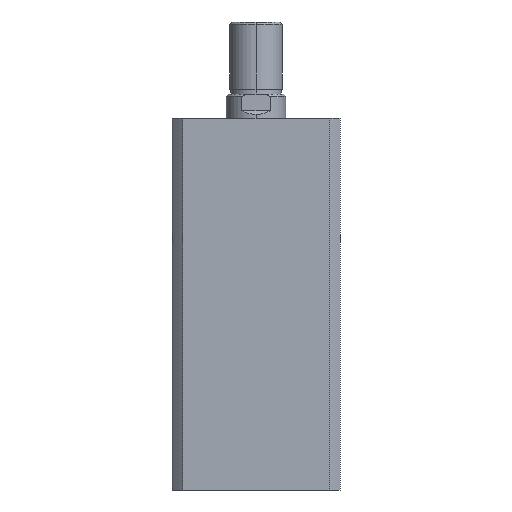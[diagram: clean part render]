
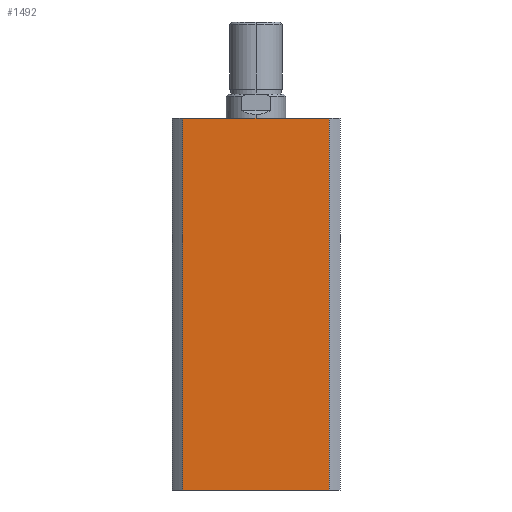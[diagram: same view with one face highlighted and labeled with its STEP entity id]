
A CAD part, left-side view. The second image highlights one B-rep face of the part: STEP entity #1492.
In plain terms, the highlighted planar face has unit normal (-1, 0, 0).
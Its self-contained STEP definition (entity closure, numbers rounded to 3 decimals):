
#146 = VERTEX_POINT ( 'NONE', #3818 ) ;
#182 = ORIENTED_EDGE ( 'NONE', *, *, #2822, .T. ) ;
#184 = ORIENTED_EDGE ( 'NONE', *, *, #2835, .F. ) ;
#195 = ORIENTED_EDGE ( 'NONE', *, *, #2828, .F. ) ;
#201 = ORIENTED_EDGE ( 'NONE', *, *, #2465, .T. ) ;
#362 = VERTEX_POINT ( 'NONE', #3873 ) ;
#363 = VERTEX_POINT ( 'NONE', #3813 ) ;
#583 = VECTOR ( 'NONE', #4384, 1000. ) ;
#585 = LINE ( 'NONE', #4377, #583 ) ;
#591 = VECTOR ( 'NONE', #4370, 1000. ) ;
#594 = LINE ( 'NONE', #4369, #591 ) ;
#601 = VECTOR ( 'NONE', #4358, 1000. ) ;
#604 = LINE ( 'NONE', #4357, #601 ) ;
#1492 = ADVANCED_FACE ( 'NONE', ( #3078 ), #3406, .F. ) ;
#1801 = VECTOR ( 'NONE', #2126, 1000. ) ;
#1810 = LINE ( 'NONE', #2119, #1801 ) ;
#2119 = CARTESIAN_POINT ( 'NONE',  ( -35., 0., 0. ) ) ;
#2126 = DIRECTION ( 'NONE',  ( 0., -1., 0. ) ) ;
#2465 = EDGE_CURVE ( 'NONE', #362, #363, #1810, .T. ) ;
#2629 = AXIS2_PLACEMENT_3D ( 'NONE', #3395, #3405, #3404 ) ;
#2822 = EDGE_CURVE ( 'NONE', #5170, #362, #604, .T. ) ;
#2828 = EDGE_CURVE ( 'NONE', #146, #363, #594, .T. ) ;
#2835 = EDGE_CURVE ( 'NONE', #5170, #146, #585, .T. ) ;
#2908 = EDGE_LOOP ( 'NONE', ( #201, #195, #184, #182 ) ) ;
#3078 = FACE_OUTER_BOUND ( 'NONE', #2908, .T. ) ;
#3395 = CARTESIAN_POINT ( 'NONE',  ( -35., 0., 155. ) ) ;
#3404 = DIRECTION ( 'NONE',  ( 0., 1., 0. ) ) ;
#3405 = DIRECTION ( 'NONE',  ( 1., 0., 0. ) ) ;
#3406 = PLANE ( 'NONE',  #2629 ) ;
#3813 = CARTESIAN_POINT ( 'NONE',  ( -35., -30.615, 0. ) ) ;
#3818 = CARTESIAN_POINT ( 'NONE',  ( -35., -30.615, 155. ) ) ;
#3873 = CARTESIAN_POINT ( 'NONE',  ( -35., 30.615, 0. ) ) ;
#4357 = CARTESIAN_POINT ( 'NONE',  ( -35., 30.615, 155. ) ) ;
#4358 = DIRECTION ( 'NONE',  ( 0., 0., -1. ) ) ;
#4369 = CARTESIAN_POINT ( 'NONE',  ( -35., -30.615, 155. ) ) ;
#4370 = DIRECTION ( 'NONE',  ( 0., 0., -1. ) ) ;
#4377 = CARTESIAN_POINT ( 'NONE',  ( -35., 0., 155. ) ) ;
#4384 = DIRECTION ( 'NONE',  ( 0., -1., 0. ) ) ;
#4606 = CARTESIAN_POINT ( 'NONE',  ( -35., 30.615, 155. ) ) ;
#5170 = VERTEX_POINT ( 'NONE', #4606 ) ;
